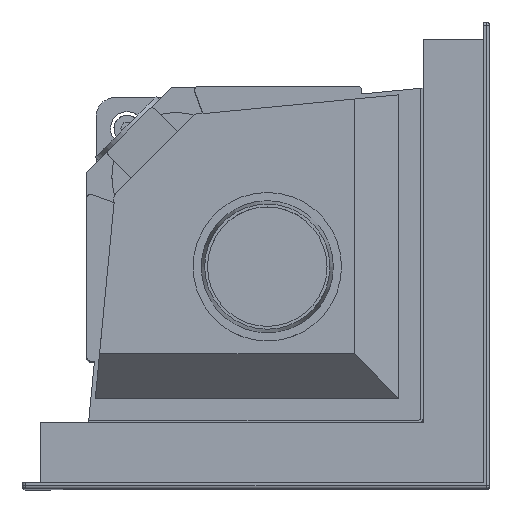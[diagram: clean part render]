
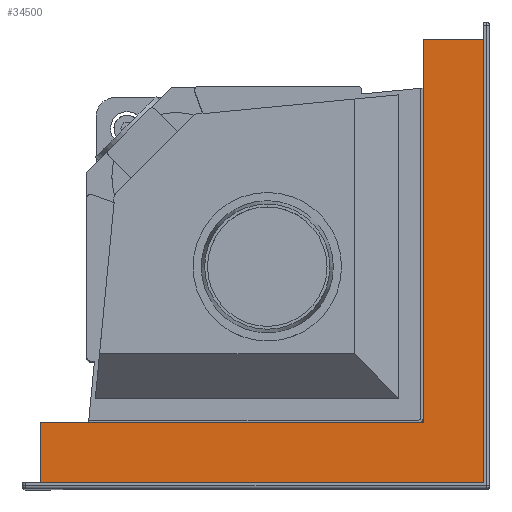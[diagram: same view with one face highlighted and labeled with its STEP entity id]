
A CAD part, top view. The second image highlights one B-rep face of the part: STEP entity #34500.
In plain terms, the highlighted planar face has unit normal (0, 0, 1).
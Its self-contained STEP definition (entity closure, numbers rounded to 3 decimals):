
#3128=LINE('',#63953,#5158);
#3138=LINE('',#63972,#5168);
#3170=LINE('',#64039,#5200);
#3173=LINE('',#64045,#5203);
#3175=LINE('',#64052,#5205);
#3179=LINE('',#64059,#5209);
#5158=VECTOR('',#42047,1000.);
#5168=VECTOR('',#42059,1000.);
#5200=VECTOR('',#42107,1000.);
#5203=VECTOR('',#42114,1000.);
#5205=VECTOR('',#42124,1000.);
#5209=VECTOR('',#42130,1000.);
#12666=ORIENTED_EDGE('',*,*,#16510,.F.);
#12667=ORIENTED_EDGE('',*,*,#16500,.F.);
#12668=ORIENTED_EDGE('',*,*,#16555,.F.);
#12669=ORIENTED_EDGE('',*,*,#16551,.F.);
#12670=ORIENTED_EDGE('',*,*,#16546,.F.);
#12671=ORIENTED_EDGE('',*,*,#16542,.F.);
#16500=EDGE_CURVE('',#19003,#19004,#3128,.T.);
#16510=EDGE_CURVE('',#19004,#19012,#3138,.T.);
#16542=EDGE_CURVE('',#19012,#19038,#3170,.T.);
#16546=EDGE_CURVE('',#19038,#19040,#3173,.T.);
#16551=EDGE_CURVE('',#19040,#19041,#3175,.T.);
#16555=EDGE_CURVE('',#19041,#19003,#3179,.T.);
#19003=VERTEX_POINT('',#63952);
#19004=VERTEX_POINT('',#63954);
#19012=VERTEX_POINT('',#63973);
#19038=VERTEX_POINT('',#64037);
#19040=VERTEX_POINT('',#64046);
#19041=VERTEX_POINT('',#64053);
#21807=EDGE_LOOP('',(#12666,#12667,#12668,#12669,#12670,#12671));
#23450=FACE_BOUND('',#21807,.T.);
#24455=PLANE('',#36391);
#34500=ADVANCED_FACE('',(#23450),#24455,.F.);
#36391=AXIS2_PLACEMENT_3D('',#64060,#42131,#42132);
#42047=DIRECTION('',(1.,0.,0.));
#42059=DIRECTION('',(0.,1.,0.));
#42107=DIRECTION('',(1.,0.,0.));
#42114=DIRECTION('',(0.,-1.,0.));
#42124=DIRECTION('',(-1.,0.,0.));
#42130=DIRECTION('',(0.,1.,0.));
#42131=DIRECTION('',(0.,0.,-1.));
#42132=DIRECTION('',(-1.,0.,0.));
#63952=CARTESIAN_POINT('',(-206.75,-226.75,310.2));
#63953=CARTESIAN_POINT('',(-226.75,-226.75,310.2));
#63954=CARTESIAN_POINT('',(226.75,-226.75,310.2));
#63972=CARTESIAN_POINT('',(226.75,-226.75,310.2));
#63973=CARTESIAN_POINT('',(226.75,206.75,310.2));
#64037=CARTESIAN_POINT('',(294.75,206.75,310.2));
#64039=CARTESIAN_POINT('',(226.75,206.75,310.2));
#64045=CARTESIAN_POINT('',(294.75,226.75,310.2));
#64046=CARTESIAN_POINT('',(294.75,-294.75,310.2));
#64052=CARTESIAN_POINT('',(294.75,-294.75,310.2));
#64053=CARTESIAN_POINT('',(-206.75,-294.75,310.2));
#64059=CARTESIAN_POINT('',(-206.75,-294.75,310.2));
#64060=CARTESIAN_POINT('',(0.,0.,310.2));
